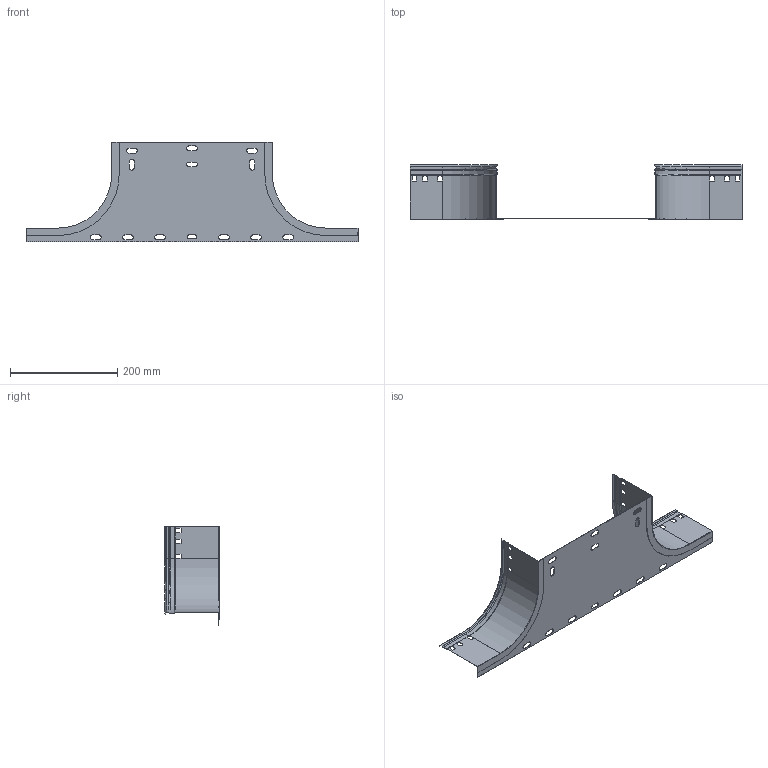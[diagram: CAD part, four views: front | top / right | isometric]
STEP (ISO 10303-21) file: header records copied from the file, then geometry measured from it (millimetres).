
FILE_DESCRIPTION (( 'STEP AP203' ), '1' );
FILE_NAME ('ERE_AS 300x100.step', '2023-07-27T18:50:40', ( '' ), ( '' ), 'SwSTEP 2.0', 'SolidWorks 2022', '' );
FILE_SCHEMA (( 'CONFIG_CONTROL_DESIGN' ));
Length unit declared in the file: millimetre
Products named in the file (3): ERE_LATERAL AS_100; ERE_AS 300x100; ERE_BASE AS_300
Assembly tree (3 placements, depth 2):
  ERE_AS 300x100
    ERE_BASE AS_300
    ERE_LATERAL AS_100  x2
Bounding box: 620 x 102 x 185.5 mm (x, y, z)
Volume: 117035.1 mm3; surface area: 264037.6 mm2
Topology: 3 solids, 3 shells, 218 faces, 624 edges, 388 vertices
Faces by surface type: plane 136, cylinder 68, cone 14
Entity records: 5023 total; most frequent: CARTESIAN_POINT 826, ORIENTED_EDGE 816, DIRECTION 814, EDGE_CURVE 408, VECTOR 290, LINE 290, AXIS2_PLACEMENT_3D 262, VERTEX_POINT 258
